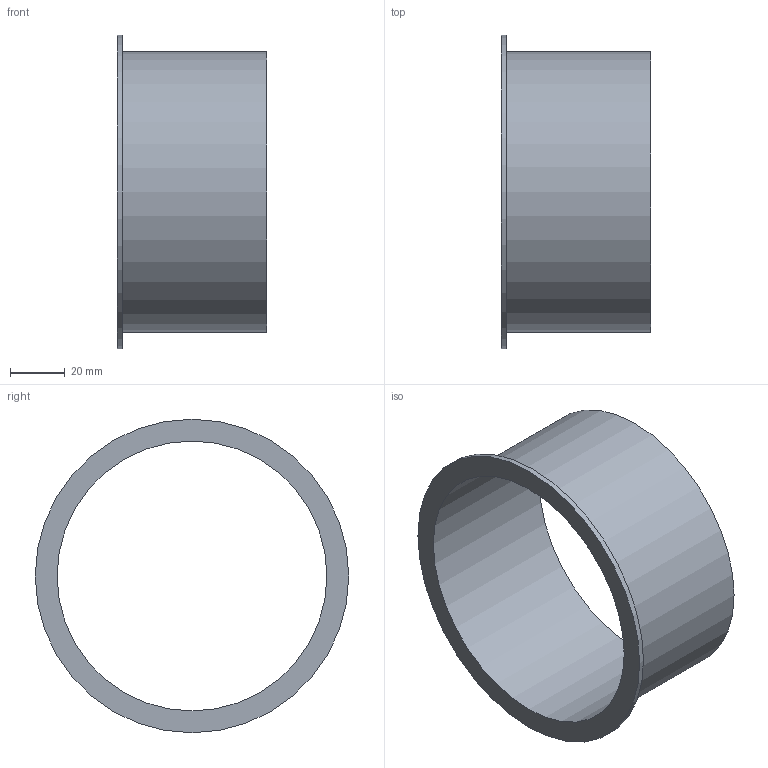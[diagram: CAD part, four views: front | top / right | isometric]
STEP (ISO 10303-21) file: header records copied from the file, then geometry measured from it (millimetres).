
FILE_DESCRIPTION((''),'2;1');
FILE_NAME('U:\Wolfgang\Marcel-3D\fertig\Kapitel 1\1021012.stp','2010-05-31T11:03:05',('TK2'),(''),'Autodesk Inventor 2010','Autodesk Inventor 2010','');
FILE_SCHEMA(('AUTOMOTIVE_DESIGN { 1 0 10303 214 1 1 1 1 }'));
Length unit declared in the file: millimetre
Products named in the file (1): 1021012
Bounding box: 55 x 115 x 115 mm (x, y, z)
Volume: 39012.3 mm3; surface area: 40356.9 mm2
Topology: 1 solids, 1 shells, 6 faces, 9 edges, 6 vertices
Faces by surface type: cylinder 3, plane 3
Full cylindrical faces by diameter (mm): 99 x1, 103 x1, 115 x1
Entity records: 154 total; most frequent: DIRECTION 26, CARTESIAN_POINT 19, AXIS2_PLACEMENT_3D 13, ORIENTED_EDGE 12, EDGE_LOOP 12, VERTEX_POINT 6, CIRCLE 6, EDGE_CURVE 6
